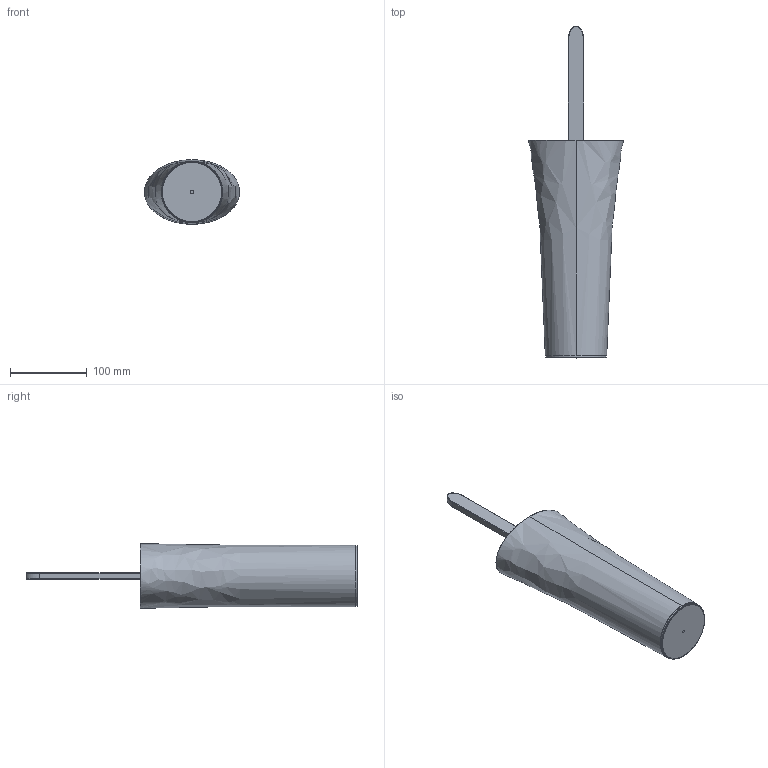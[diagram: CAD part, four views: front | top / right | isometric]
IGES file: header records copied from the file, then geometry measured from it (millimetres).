
Start section: SolidWorks IGES file using analytic representation for surfaces
Global section: file name: G:\Projects\New project\For Marketing\IGS\IGS\2015-12-25\769050318VW.IGS; native system: SolidWorks 2010; preprocessor: SolidWorks 2010; author: linda; date: 151216.141518; units: millimetre
Bounding box: 124 x 431.7 x 84 mm (x, y, z)
Surface area: 110123.4 mm2 (no closed solid volume)
Topology: 0 solids, 0 shells, 29 faces, 584 edges, 584 vertices
Faces by surface type: bspline 21, revolution 8
